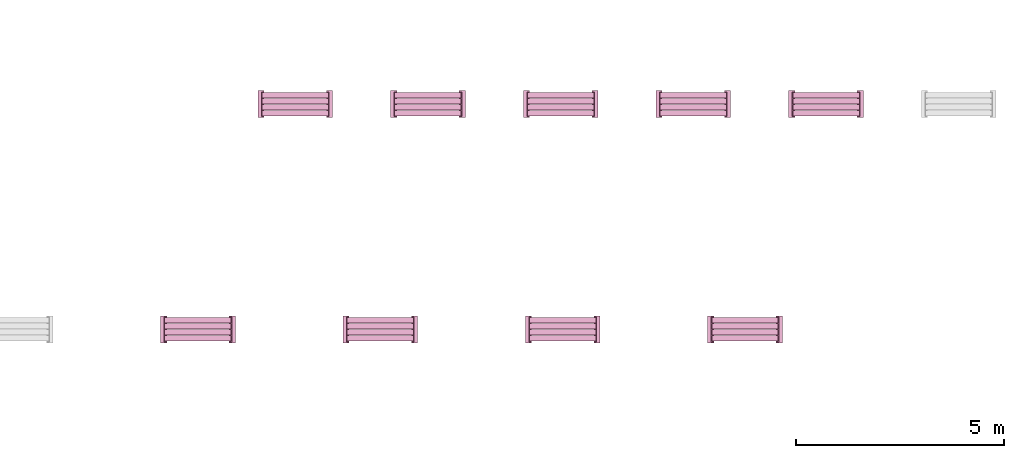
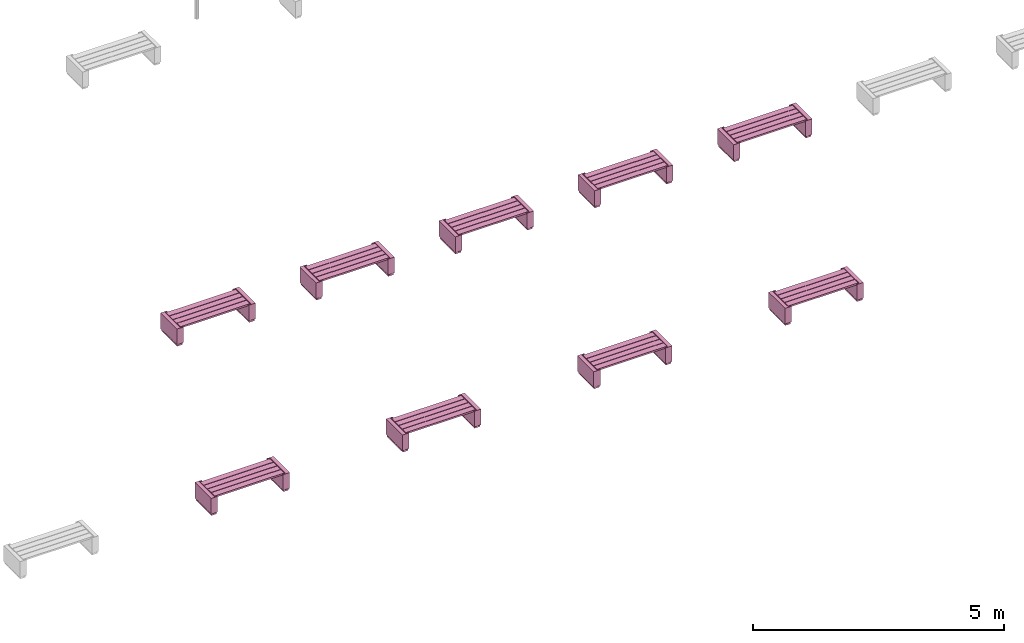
# One storey, part 6 of 8: 9 furnishings.
"""IFC2X3 building model written with IfcOpenShell, lengths in millimetres."""

from ifc_helpers import new_model, entity, si_unit, converted_unit, derived_unit, direction, frame, frame_2d, origin, origin_2d_with_axis, place, context, subcontext, project, spatial, polyline, rectangle, outline, extrude, source, transform, mapped, material, material_list, type_object, type_shapes, element, save


model = new_model("IFC2X3")

# Units and contexts
model_context = context("Model", 3, precision=0.01, world=origin(), true_north=direction((6.12303176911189e-17, 1.0)))
body_context = subcontext(model_context, "Body", "Model", "MODEL_VIEW")
ifc_project = project(units=[si_unit("LENGTHUNIT", "METRE", prefix="MILLI"), si_unit("AREAUNIT", "SQUARE_METRE"), si_unit("VOLUMEUNIT", "CUBIC_METRE"), converted_unit("PLANEANGLEUNIT", "DEGREE", entity("IfcRatioMeasure", 0.0174532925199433), si_unit("PLANEANGLEUNIT", "RADIAN"), dimensions=[0, 0, 0, 0, 0, 0, 0]), si_unit("MASSUNIT", "GRAM", prefix="KILO"), derived_unit("MASSDENSITYUNIT", [(si_unit("MASSUNIT", "GRAM", prefix="KILO"), 1), (si_unit("LENGTHUNIT", "METRE"), -3)]), si_unit("TIMEUNIT", "SECOND"), si_unit("FREQUENCYUNIT", "HERTZ"), si_unit("THERMODYNAMICTEMPERATUREUNIT", "DEGREE_CELSIUS"), derived_unit("THERMALTRANSMITTANCEUNIT", [(si_unit("MASSUNIT", "GRAM", prefix="KILO"), 1), (si_unit("THERMODYNAMICTEMPERATUREUNIT", "KELVIN"), -1), (si_unit("TIMEUNIT", "SECOND"), -3)]), derived_unit("VOLUMETRICFLOWRATEUNIT", [(si_unit("LENGTHUNIT", "METRE"), 3), (si_unit("TIMEUNIT", "SECOND"), -1)]), si_unit("ELECTRICCURRENTUNIT", "AMPERE"), si_unit("ELECTRICVOLTAGEUNIT", "VOLT"), si_unit("POWERUNIT", "WATT"), si_unit("FORCEUNIT", "NEWTON", prefix="KILO"), si_unit("ILLUMINANCEUNIT", "LUX"), si_unit("LUMINOUSFLUXUNIT", "LUMEN"), si_unit("LUMINOUSINTENSITYUNIT", "CANDELA"), derived_unit("USERDEFINED", [(si_unit("MASSUNIT", "GRAM", prefix="KILO"), -1), (si_unit("LENGTHUNIT", "METRE"), -2), (si_unit("TIMEUNIT", "SECOND"), 3), (si_unit("LUMINOUSFLUXUNIT", "LUMEN"), 1)]), derived_unit("LINEARVELOCITYUNIT", [(si_unit("LENGTHUNIT", "METRE"), 1), (si_unit("TIMEUNIT", "SECOND"), -1)]), si_unit("PRESSUREUNIT", "PASCAL"), derived_unit("USERDEFINED", [(si_unit("LENGTHUNIT", "METRE"), -2), (si_unit("MASSUNIT", "GRAM", prefix="KILO"), 1), (si_unit("TIMEUNIT", "SECOND"), -2)])], contexts=[model_context])

# Site, building, storey
site_placement = place(None, origin())
site = spatial("IfcSite", under=ifc_project, at=site_placement, Name="Default", CompositionType="ELEMENT")
building_placement = place(site_placement, origin())
building = spatial("IfcBuilding", under=site, at=building_placement, CompositionType="ELEMENT")
storey_placement = place(building_placement, origin())
storey = spatial("IfcBuildingStorey", under=building, at=storey_placement, Name="Ground Floor", CompositionType="ELEMENT", Elevation=0.0)

# Furnishings
ifc_material_1 = material(Name="Wood - Pine Grained Horizontal")
ifc_material_2 = material(Name="Paint - Titanium White")
ifc_material_list_1 = material_list([ifc_material_1, ifc_material_2])
ifc_material_list_2 = material_list([ifc_material_1, ifc_material_2])
furniture_type_1 = type_object("IfcFurnitureType", Name="FU - 036", material=ifc_material_list_2)
shared_shape_1 = source(origin(), body_context, "Body", "SweptSolid", [
    extrude(rectangle(XDim=135.000000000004, YDim=1600.0, at=frame_2d((0.0, 8.69704308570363e-12), x_axis=(1.0, 0.0))), frame((86569.7176176, 43103.6148315, 390.0), z_axis=(0.0, 0.0, 1.0), x_axis=(0.0, -1.0, 0.0)), (0.0, 0.0, 1.0), 40.0),
    extrude(rectangle(XDim=135.000000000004, YDim=1600.0, at=frame_2d((0.0, 8.69704308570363e-12), x_axis=(1.0, 0.0))), frame((86569.7176176, 42958.6148315, 390.0), z_axis=(0.0, 0.0, 1.0), x_axis=(0.0, -1.0, 0.0)), (0.0, 0.0, 1.0), 40.0),
    extrude(rectangle(XDim=134.999999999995, YDim=1600.0, at=frame_2d((-4.32720526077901e-12, 8.69704308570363e-12), x_axis=(1.0, 0.0))), frame((86569.7176176, 42813.6148315, 390.0), z_axis=(0.0, 0.0, 1.0), x_axis=(0.0, -1.0, 0.0)), (0.0, 0.0, 1.0), 40.0),
    extrude(rectangle(XDim=134.999999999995, YDim=1600.0, at=frame_2d((-4.32720526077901e-12, 8.69704308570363e-12), x_axis=(1.0, 0.0))), frame((86569.7176176, 42668.6148315, 390.0), z_axis=(0.0, 0.0, 1.0), x_axis=(0.0, -1.0, 0.0)), (0.0, 0.0, 1.0), 40.0),
    extrude(outline(polyline([(-53.7500000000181, -325.0), (96.2499999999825, -325.0), (96.2499999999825, 325.0), (-53.7500000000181, 325.0), (-53.7500000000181, 300.0), (11.2499999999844, 300.0), (11.2499999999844, -300.0), (-53.7500000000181, -300.0), (-53.7500000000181, -325.0)])), frame((87373.4676176, 42886.1148315, 390.0)), (0.0, 0.0, 1.0), 40.0),
    extrude(rectangle(XDim=150.000000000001, YDim=650.0, at=frame_2d((0.0, -4.34852154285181e-12), x_axis=(1.0, 0.0))), frame((87394.7176176, 42886.1148315, 50.0)), (0.0, 0.0, 1.0), 340.0),
    extrude(rectangle(XDim=120.000000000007, YDim=619.999999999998, at=origin_2d_with_axis()), frame((87394.7176176, 42886.1148315, 0.0)), (0.0, 0.0, 1.0), 50.0),
    extrude(outline(polyline([(-325.0, -96.2500000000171), (325.0, -96.2500000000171), (325.0, 53.7499999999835), (300.0, 53.7499999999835), (300.0, -11.2500000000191), (-300.0, -11.2500000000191), (-300.0, 53.7499999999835), (-325.0, 53.7499999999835), (-325.0, -96.2500000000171)])), frame((85765.9676176, 42886.1148315, 390.0), z_axis=(0.0, 0.0, 1.0), x_axis=(0.0, -1.0, 0.0)), (0.0, 0.0, 1.0), 40.0),
    extrude(rectangle(XDim=650.0, YDim=150.000000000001, at=frame_2d((4.34852154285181e-12, 0.0), x_axis=(1.0, 0.0))), frame((85744.7176176, 42886.1148315, 50.0), z_axis=(0.0, 0.0, 1.0), x_axis=(0.0, -1.0, 0.0)), (0.0, 0.0, 1.0), 340.0),
    extrude(rectangle(XDim=619.999999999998, YDim=120.000000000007, at=origin_2d_with_axis()), frame((85744.7176176, 42886.1148315, 0.0), z_axis=(0.0, 0.0, 1.0), x_axis=(0.0, -1.0, 0.0)), (0.0, 0.0, 1.0), 50.0),
])
type_shapes(furniture_type_1, [shared_shape_1])
furnishing_1_placement = place(storey_placement, origin())
element("IfcFurnishingElement", 1, at=furnishing_1_placement, inside=storey, type_object=furniture_type_1, material=ifc_material_list_1, Name="FU - 036 2102950:FU - 036 2102950", ObjectType="FU - 036 2102950:FU - 036 2102950", context=body_context, shape_type="MappedRepresentation", body=[
    mapped(shared_shape_1, transform((0.0, 0.0, 0.0), scale=1.0)),
])
ifc_material_list_3 = material_list([ifc_material_1, ifc_material_2])
ifc_material_list_4 = material_list([ifc_material_1, ifc_material_2])
furniture_type_2 = type_object("IfcFurnitureType", Name="FU - 036", material=ifc_material_list_4)
shared_shape_2 = source(origin(), body_context, "Body", "SweptSolid", [
    extrude(rectangle(XDim=135.000000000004, YDim=1600.0, at=frame_2d((0.0, -8.69704308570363e-12), x_axis=(1.0, 0.0))), frame((82178.6670405, 43103.6148315, 390.0), z_axis=(0.0, 0.0, 1.0), x_axis=(0.0, -1.0, 0.0)), (0.0, 0.0, 1.0), 40.0),
    extrude(rectangle(XDim=135.000000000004, YDim=1600.0, at=frame_2d((0.0, -8.69704308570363e-12), x_axis=(1.0, 0.0))), frame((82178.6670405, 42958.6148315, 390.0), z_axis=(0.0, 0.0, 1.0), x_axis=(0.0, -1.0, 0.0)), (0.0, 0.0, 1.0), 40.0),
    extrude(rectangle(XDim=134.999999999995, YDim=1600.0, at=frame_2d((-4.32720526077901e-12, -8.69704308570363e-12), x_axis=(1.0, 0.0))), frame((82178.6670405, 42813.6148315, 390.0), z_axis=(0.0, 0.0, 1.0), x_axis=(0.0, -1.0, 0.0)), (0.0, 0.0, 1.0), 40.0),
    extrude(rectangle(XDim=134.999999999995, YDim=1600.0, at=frame_2d((-4.32720526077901e-12, -8.69704308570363e-12), x_axis=(1.0, 0.0))), frame((82178.6670405, 42668.6148315, 390.0), z_axis=(0.0, 0.0, 1.0), x_axis=(0.0, -1.0, 0.0)), (0.0, 0.0, 1.0), 40.0),
    extrude(outline(polyline([(-53.7500000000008, -325.0), (96.2499999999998, -325.0), (96.2499999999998, 325.0), (-53.7500000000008, 325.0), (-53.7500000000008, 300.0), (11.2500000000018, 300.0), (11.2500000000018, -300.0), (-53.7500000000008, -300.0), (-53.7500000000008, -325.0)])), frame((82982.4170405, 42886.1148315, 390.0)), (0.0, 0.0, 1.0), 40.0),
    extrude(rectangle(XDim=150.000000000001, YDim=650.0, at=frame_2d((0.0, -4.34852154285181e-12), x_axis=(1.0, 0.0))), frame((83003.6670405, 42886.1148315, 50.0)), (0.0, 0.0, 1.0), 340.0),
    extrude(rectangle(XDim=119.99999999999, YDim=619.999999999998, at=frame_2d((-8.66506866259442e-12, 0.0), x_axis=(1.0, 0.0))), frame((83003.6670405, 42886.1148315, 0.0)), (0.0, 0.0, 1.0), 50.0),
    extrude(outline(polyline([(-325.0, -96.2499999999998), (325.0, -96.2499999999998), (325.0, 53.7500000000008), (300.0, 53.7500000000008), (300.0, -11.2500000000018), (-300.0, -11.2500000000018), (-300.0, 53.7500000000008), (-325.0, 53.7500000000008), (-325.0, -96.2499999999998)])), frame((81374.9170405, 42886.1148315, 390.0), z_axis=(0.0, 0.0, 1.0), x_axis=(0.0, -1.0, 0.0)), (0.0, 0.0, 1.0), 40.0),
    extrude(rectangle(XDim=650.0, YDim=150.000000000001, at=frame_2d((4.34852154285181e-12, 0.0), x_axis=(1.0, 0.0))), frame((81353.6670405, 42886.1148315, 50.0), z_axis=(0.0, 0.0, 1.0), x_axis=(0.0, -1.0, 0.0)), (0.0, 0.0, 1.0), 340.0),
    extrude(rectangle(XDim=619.999999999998, YDim=120.000000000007, at=origin_2d_with_axis()), frame((81353.6670405, 42886.1148315, 0.0), z_axis=(0.0, 0.0, 1.0), x_axis=(0.0, -1.0, 0.0)), (0.0, 0.0, 1.0), 50.0),
])
type_shapes(furniture_type_2, [shared_shape_2])
furnishing_2_placement = place(storey_placement, origin())
element("IfcFurnishingElement", 2, at=furnishing_2_placement, inside=storey, type_object=furniture_type_2, material=ifc_material_list_3, Name="FU - 036 2103099:FU - 036 2103099", ObjectType="FU - 036 2103099:FU - 036 2103099", context=body_context, shape_type="MappedRepresentation", body=[
    mapped(shared_shape_2, transform((0.0, 0.0, 0.0), scale=1.0)),
])
ifc_material_list_5 = material_list([ifc_material_1, ifc_material_2])
ifc_material_list_6 = material_list([ifc_material_1, ifc_material_2])
furniture_type_3 = type_object("IfcFurnitureType", Name="FU - 036", material=ifc_material_list_6)
shared_shape_3 = source(origin(), body_context, "Body", "SweptSolid", [
    extrude(rectangle(XDim=135.000000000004, YDim=1600.0, at=origin_2d_with_axis()), frame((77787.6164634, 43103.6148315, 390.0), z_axis=(0.0, 0.0, 1.0), x_axis=(0.0, -1.0, 0.0)), (0.0, 0.0, 1.0), 40.0),
    extrude(rectangle(XDim=135.000000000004, YDim=1600.0, at=origin_2d_with_axis()), frame((77787.6164634, 42958.6148315, 390.0), z_axis=(0.0, 0.0, 1.0), x_axis=(0.0, -1.0, 0.0)), (0.0, 0.0, 1.0), 40.0),
    extrude(rectangle(XDim=134.999999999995, YDim=1600.0, at=frame_2d((-4.32720526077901e-12, 0.0), x_axis=(1.0, 0.0))), frame((77787.6164634, 42813.6148315, 390.0), z_axis=(0.0, 0.0, 1.0), x_axis=(0.0, -1.0, 0.0)), (0.0, 0.0, 1.0), 40.0),
    extrude(rectangle(XDim=134.999999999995, YDim=1600.0, at=frame_2d((-4.32720526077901e-12, 0.0), x_axis=(1.0, 0.0))), frame((77787.6164634, 42668.6148315, 390.0), z_axis=(0.0, 0.0, 1.0), x_axis=(0.0, -1.0, 0.0)), (0.0, 0.0, 1.0), 40.0),
    extrude(outline(polyline([(-53.7500000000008, -325.0), (96.2499999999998, -325.0), (96.2499999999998, 325.0), (-53.7500000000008, 325.0), (-53.7500000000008, 300.0), (11.2500000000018, 300.0), (11.2500000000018, -300.0), (-53.7500000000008, -300.0), (-53.7500000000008, -325.0)])), frame((78591.3664634, 42886.1148315, 390.0)), (0.0, 0.0, 1.0), 40.0),
    extrude(rectangle(XDim=150.000000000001, YDim=650.0, at=frame_2d((0.0, -4.34852154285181e-12), x_axis=(1.0, 0.0))), frame((78612.6164634, 42886.1148315, 50.0)), (0.0, 0.0, 1.0), 340.0),
    extrude(rectangle(XDim=120.000000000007, YDim=619.999999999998, at=origin_2d_with_axis()), frame((78612.6164634, 42886.1148315, 0.0)), (0.0, 0.0, 1.0), 50.0),
    extrude(outline(polyline([(-325.0, -96.2499999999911), (325.0, -96.2499999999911), (325.0, 53.7500000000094), (300.0, 53.7500000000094), (300.0, -11.2499999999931), (-300.0, -11.2499999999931), (-300.0, 53.7500000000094), (-325.0, 53.7500000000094), (-325.0, -96.2499999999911)])), frame((76983.8664634, 42886.1148315, 390.0), z_axis=(0.0, 0.0, 1.0), x_axis=(0.0, -1.0, 0.0)), (0.0, 0.0, 1.0), 40.0),
    extrude(rectangle(XDim=650.0, YDim=150.000000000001, at=frame_2d((4.34852154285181e-12, 0.0), x_axis=(1.0, 0.0))), frame((76962.6164634, 42886.1148315, 50.0), z_axis=(0.0, 0.0, 1.0), x_axis=(0.0, -1.0, 0.0)), (0.0, 0.0, 1.0), 340.0),
    extrude(rectangle(XDim=619.999999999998, YDim=119.999999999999, at=frame_2d((0.0, 4.33075797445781e-12), x_axis=(1.0, 0.0))), frame((76962.6164634, 42886.1148315, 0.0), z_axis=(0.0, 0.0, 1.0), x_axis=(0.0, -1.0, 0.0)), (0.0, 0.0, 1.0), 50.0),
])
type_shapes(furniture_type_3, [shared_shape_3])
furnishing_3_placement = place(storey_placement, origin())
element("IfcFurnishingElement", 3, at=furnishing_3_placement, inside=storey, type_object=furniture_type_3, material=ifc_material_list_5, Name="FU - 036 2103248:FU - 036 2103248", ObjectType="FU - 036 2103248:FU - 036 2103248", context=body_context, shape_type="MappedRepresentation", body=[
    mapped(shared_shape_3, transform((0.0, 0.0, 0.0), scale=1.0)),
])
ifc_material_list_7 = material_list([ifc_material_1, ifc_material_2])
ifc_material_list_8 = material_list([ifc_material_1, ifc_material_2])
furniture_type_4 = type_object("IfcFurnitureType", Name="FU - 036", material=ifc_material_list_8)
shared_shape_4 = source(origin(), body_context, "Body", "SweptSolid", [
    extrude(rectangle(XDim=135.000000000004, YDim=1600.0, at=frame_2d((0.0, 8.69704308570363e-12), x_axis=(1.0, 0.0))), frame((73396.5658864, 43103.6148315, 390.0), z_axis=(0.0, 0.0, 1.0), x_axis=(0.0, -1.0, 0.0)), (0.0, 0.0, 1.0), 40.0),
    extrude(rectangle(XDim=135.000000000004, YDim=1600.0, at=frame_2d((0.0, 8.69704308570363e-12), x_axis=(1.0, 0.0))), frame((73396.5658864, 42958.6148315, 390.0), z_axis=(0.0, 0.0, 1.0), x_axis=(0.0, -1.0, 0.0)), (0.0, 0.0, 1.0), 40.0),
    extrude(rectangle(XDim=134.999999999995, YDim=1600.0, at=frame_2d((-4.32720526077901e-12, 8.69704308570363e-12), x_axis=(1.0, 0.0))), frame((73396.5658864, 42813.6148315, 390.0), z_axis=(0.0, 0.0, 1.0), x_axis=(0.0, -1.0, 0.0)), (0.0, 0.0, 1.0), 40.0),
    extrude(rectangle(XDim=134.999999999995, YDim=1600.0, at=frame_2d((-4.32720526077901e-12, 8.69704308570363e-12), x_axis=(1.0, 0.0))), frame((73396.5658864, 42668.6148315, 390.0), z_axis=(0.0, 0.0, 1.0), x_axis=(0.0, -1.0, 0.0)), (0.0, 0.0, 1.0), 40.0),
    extrude(outline(polyline([(-53.7500000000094, -325.0), (96.2499999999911, -325.0), (96.2499999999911, 325.0), (-53.7500000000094, 325.0), (-53.7500000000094, 300.0), (11.2499999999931, 300.0), (11.2499999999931, -300.0), (-53.7500000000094, -300.0), (-53.7500000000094, -325.0)])), frame((74200.3158864, 42886.1148315, 390.0)), (0.0, 0.0, 1.0), 40.0),
    extrude(rectangle(XDim=150.000000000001, YDim=650.0, at=frame_2d((0.0, -4.34852154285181e-12), x_axis=(1.0, 0.0))), frame((74221.5658864, 42886.1148315, 50.0)), (0.0, 0.0, 1.0), 340.0),
    extrude(rectangle(XDim=120.000000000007, YDim=619.999999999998, at=origin_2d_with_axis()), frame((74221.5658864, 42886.1148315, 0.0)), (0.0, 0.0, 1.0), 50.0),
    extrude(outline(polyline([(-325.0, -96.2500000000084), (325.0, -96.2500000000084), (325.0, 53.7499999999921), (300.0, 53.7499999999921), (300.0, -11.2500000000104), (-300.0, -11.2500000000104), (-300.0, 53.7499999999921), (-325.0, 53.7499999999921), (-325.0, -96.2500000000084)])), frame((72592.8158864, 42886.1148315, 390.0), z_axis=(0.0, 0.0, 1.0), x_axis=(0.0, -1.0, 0.0)), (0.0, 0.0, 1.0), 40.0),
    extrude(rectangle(XDim=650.0, YDim=150.000000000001, at=frame_2d((4.34852154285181e-12, 0.0), x_axis=(1.0, 0.0))), frame((72571.5658864, 42886.1148315, 50.0), z_axis=(0.0, 0.0, 1.0), x_axis=(0.0, -1.0, 0.0)), (0.0, 0.0, 1.0), 340.0),
    extrude(rectangle(XDim=619.999999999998, YDim=119.999999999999, at=frame_2d((0.0, -4.33075797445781e-12), x_axis=(1.0, 0.0))), frame((72571.5658864, 42886.1148315, 0.0), z_axis=(0.0, 0.0, 1.0), x_axis=(0.0, -1.0, 0.0)), (0.0, 0.0, 1.0), 50.0),
])
type_shapes(furniture_type_4, [shared_shape_4])
furnishing_4_placement = place(storey_placement, origin())
element("IfcFurnishingElement", 4, at=furnishing_4_placement, inside=storey, type_object=furniture_type_4, material=ifc_material_list_7, Name="FU - 036 2103397:FU - 036 2103397", ObjectType="FU - 036 2103397:FU - 036 2103397", context=body_context, shape_type="MappedRepresentation", body=[
    mapped(shared_shape_4, transform((0.0, 0.0, 0.0), scale=1.0)),
])
ifc_material_list_9 = material_list([ifc_material_1, ifc_material_2])
ifc_material_list_10 = material_list([ifc_material_1, ifc_material_2])
furniture_type_5 = type_object("IfcFurnitureType", Name="FU - 036", material=ifc_material_list_10)
shared_shape_5 = source(origin(), body_context, "Body", "SweptSolid", [
    extrude(rectangle(XDim=134.999999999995, YDim=1600.0, at=frame_2d((4.32720526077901e-12, -8.69704308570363e-12), x_axis=(1.0, 0.0))), frame((88522.1799423, 48525.8136589, 390.0), z_axis=(0.0, 0.0, 1.0), x_axis=(0.0, -1.0, 0.0)), (0.0, 0.0, 1.0), 40.0),
    extrude(rectangle(XDim=134.999999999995, YDim=1600.0, at=frame_2d((4.32720526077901e-12, -8.69704308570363e-12), x_axis=(1.0, 0.0))), frame((88522.1799423, 48380.8136589, 390.0), z_axis=(0.0, 0.0, 1.0), x_axis=(0.0, -1.0, 0.0)), (0.0, 0.0, 1.0), 40.0),
    extrude(rectangle(XDim=135.000000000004, YDim=1600.0, at=frame_2d((0.0, -8.69704308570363e-12), x_axis=(1.0, 0.0))), frame((88522.1799423, 48235.8136589, 390.0), z_axis=(0.0, 0.0, 1.0), x_axis=(0.0, -1.0, 0.0)), (0.0, 0.0, 1.0), 40.0),
    extrude(rectangle(XDim=135.000000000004, YDim=1600.0, at=frame_2d((0.0, -8.69704308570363e-12), x_axis=(1.0, 0.0))), frame((88522.1799423, 48090.8136589, 390.0), z_axis=(0.0, 0.0, 1.0), x_axis=(0.0, -1.0, 0.0)), (0.0, 0.0, 1.0), 40.0),
    extrude(outline(polyline([(-53.7500000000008, -325.0), (96.2499999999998, -325.0), (96.2499999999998, 325.0), (-53.7500000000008, 325.0), (-53.7500000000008, 300.0), (11.2500000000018, 300.0), (11.2500000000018, -300.0), (-53.7500000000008, -300.0), (-53.7500000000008, -325.0)])), frame((89325.9299423, 48308.3136589, 390.0)), (0.0, 0.0, 1.0), 40.0),
    extrude(rectangle(XDim=150.000000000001, YDim=650.0, at=frame_2d((0.0, 4.34852154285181e-12), x_axis=(1.0, 0.0))), frame((89347.1799423, 48308.3136589, 50.0)), (0.0, 0.0, 1.0), 340.0),
    extrude(rectangle(XDim=120.000000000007, YDim=619.999999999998, at=origin_2d_with_axis()), frame((89347.1799423, 48308.3136589, 0.0)), (0.0, 0.0, 1.0), 50.0),
    extrude(outline(polyline([(-325.0, -96.2499999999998), (325.0, -96.2499999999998), (325.0, 53.7500000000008), (300.0, 53.7500000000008), (300.0, -11.2499999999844), (-300.0, -11.2499999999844), (-300.0, 53.7500000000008), (-325.0, 53.7500000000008), (-325.0, -96.2499999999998)])), frame((87718.4299423, 48308.3136589, 390.0), z_axis=(0.0, 0.0, 1.0), x_axis=(0.0, -1.0, 0.0)), (0.0, 0.0, 1.0), 40.0),
    extrude(rectangle(XDim=650.0, YDim=150.000000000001, at=frame_2d((-4.34852154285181e-12, 0.0), x_axis=(1.0, 0.0))), frame((87697.1799423, 48308.3136589, 50.0), z_axis=(0.0, 0.0, 1.0), x_axis=(0.0, -1.0, 0.0)), (0.0, 0.0, 1.0), 340.0),
    extrude(rectangle(XDim=619.999999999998, YDim=119.99999999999, at=frame_2d((0.0, -8.66506866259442e-12), x_axis=(1.0, 0.0))), frame((87697.1799423, 48308.3136589, 0.0), z_axis=(0.0, 0.0, 1.0), x_axis=(0.0, -1.0, 0.0)), (0.0, 0.0, 1.0), 50.0),
])
type_shapes(furniture_type_5, [shared_shape_5])
furnishing_5_placement = place(storey_placement, origin())
element("IfcFurnishingElement", 5, at=furnishing_5_placement, inside=storey, type_object=furniture_type_5, material=ifc_material_list_9, Name="FU - 036 2105121:FU - 036 2105121", ObjectType="FU - 036 2105121:FU - 036 2105121", context=body_context, shape_type="MappedRepresentation", body=[
    mapped(shared_shape_5, transform((0.0, 0.0, 0.0), scale=1.0)),
])
ifc_material_list_11 = material_list([ifc_material_1, ifc_material_2])
ifc_material_list_12 = material_list([ifc_material_1, ifc_material_2])
furniture_type_6 = type_object("IfcFurnitureType", Name="FU - 036", material=ifc_material_list_12)
shared_shape_6 = source(origin(), body_context, "Body", "SweptSolid", [
    extrude(rectangle(XDim=134.999999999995, YDim=1600.0, at=frame_2d((4.32720526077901e-12, 8.69704308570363e-12), x_axis=(1.0, 0.0))), frame((85326.6209492, 48525.8136589, 390.0), z_axis=(0.0, 0.0, 1.0), x_axis=(0.0, -1.0, 0.0)), (0.0, 0.0, 1.0), 40.0),
    extrude(rectangle(XDim=134.999999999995, YDim=1600.0, at=frame_2d((4.32720526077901e-12, 8.69704308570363e-12), x_axis=(1.0, 0.0))), frame((85326.6209492, 48380.8136589, 390.0), z_axis=(0.0, 0.0, 1.0), x_axis=(0.0, -1.0, 0.0)), (0.0, 0.0, 1.0), 40.0),
    extrude(rectangle(XDim=135.000000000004, YDim=1600.0, at=frame_2d((0.0, 8.69704308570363e-12), x_axis=(1.0, 0.0))), frame((85326.6209492, 48235.8136589, 390.0), z_axis=(0.0, 0.0, 1.0), x_axis=(0.0, -1.0, 0.0)), (0.0, 0.0, 1.0), 40.0),
    extrude(rectangle(XDim=135.000000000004, YDim=1600.0, at=frame_2d((0.0, 8.69704308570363e-12), x_axis=(1.0, 0.0))), frame((85326.6209492, 48090.8136589, 390.0), z_axis=(0.0, 0.0, 1.0), x_axis=(0.0, -1.0, 0.0)), (0.0, 0.0, 1.0), 40.0),
    extrude(outline(polyline([(-53.7500000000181, -325.0), (96.2499999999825, -325.0), (96.2499999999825, 325.0), (-53.7500000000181, 325.0), (-53.7500000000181, 300.0), (11.2499999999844, 300.0), (11.2499999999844, -300.0), (-53.7500000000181, -300.0), (-53.7500000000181, -325.0)])), frame((86130.3709492, 48308.3136589, 390.0)), (0.0, 0.0, 1.0), 40.0),
    extrude(rectangle(XDim=150.000000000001, YDim=650.0, at=frame_2d((0.0, 4.34852154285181e-12), x_axis=(1.0, 0.0))), frame((86151.6209492, 48308.3136589, 50.0)), (0.0, 0.0, 1.0), 340.0),
    extrude(rectangle(XDim=120.000000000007, YDim=619.999999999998, at=origin_2d_with_axis()), frame((86151.6209492, 48308.3136589, 0.0)), (0.0, 0.0, 1.0), 50.0),
    extrude(outline(polyline([(-325.0, -96.2500000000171), (325.0, -96.2500000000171), (325.0, 53.7499999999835), (300.0, 53.7499999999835), (300.0, -11.2500000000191), (-300.0, -11.2500000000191), (-300.0, 53.7499999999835), (-325.0, 53.7499999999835), (-325.0, -96.2500000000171)])), frame((84522.8709492, 48308.3136589, 390.0), z_axis=(0.0, 0.0, 1.0), x_axis=(0.0, -1.0, 0.0)), (0.0, 0.0, 1.0), 40.0),
    extrude(rectangle(XDim=650.0, YDim=150.000000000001, at=frame_2d((-4.34852154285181e-12, 0.0), x_axis=(1.0, 0.0))), frame((84501.6209492, 48308.3136589, 50.0), z_axis=(0.0, 0.0, 1.0), x_axis=(0.0, -1.0, 0.0)), (0.0, 0.0, 1.0), 340.0),
    extrude(rectangle(XDim=619.999999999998, YDim=119.99999999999, at=frame_2d((0.0, 8.66506866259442e-12), x_axis=(1.0, 0.0))), frame((84501.6209492, 48308.3136589, 0.0), z_axis=(0.0, 0.0, 1.0), x_axis=(0.0, -1.0, 0.0)), (0.0, 0.0, 1.0), 50.0),
])
type_shapes(furniture_type_6, [shared_shape_6])
furnishing_6_placement = place(storey_placement, origin())
element("IfcFurnishingElement", 6, at=furnishing_6_placement, inside=storey, type_object=furniture_type_6, material=ifc_material_list_11, Name="FU - 036 2105270:FU - 036 2105270", ObjectType="FU - 036 2105270:FU - 036 2105270", context=body_context, shape_type="MappedRepresentation", body=[
    mapped(shared_shape_6, transform((0.0, 0.0, 0.0), scale=1.0)),
])
ifc_material_list_13 = material_list([ifc_material_1, ifc_material_2])
ifc_material_list_14 = material_list([ifc_material_1, ifc_material_2])
furniture_type_7 = type_object("IfcFurnitureType", Name="FU - 036", material=ifc_material_list_14)
shared_shape_7 = source(origin(), body_context, "Body", "SweptSolid", [
    extrude(rectangle(XDim=134.999999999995, YDim=1600.0, at=frame_2d((4.32720526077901e-12, -8.69704308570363e-12), x_axis=(1.0, 0.0))), frame((82131.0619561, 48525.8136589, 390.0), z_axis=(0.0, 0.0, 1.0), x_axis=(0.0, -1.0, 0.0)), (0.0, 0.0, 1.0), 40.0),
    extrude(rectangle(XDim=134.999999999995, YDim=1600.0, at=frame_2d((4.32720526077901e-12, -8.69704308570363e-12), x_axis=(1.0, 0.0))), frame((82131.0619561, 48380.8136589, 390.0), z_axis=(0.0, 0.0, 1.0), x_axis=(0.0, -1.0, 0.0)), (0.0, 0.0, 1.0), 40.0),
    extrude(rectangle(XDim=135.000000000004, YDim=1600.0, at=frame_2d((0.0, -8.69704308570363e-12), x_axis=(1.0, 0.0))), frame((82131.0619561, 48235.8136589, 390.0), z_axis=(0.0, 0.0, 1.0), x_axis=(0.0, -1.0, 0.0)), (0.0, 0.0, 1.0), 40.0),
    extrude(rectangle(XDim=135.000000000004, YDim=1600.0, at=frame_2d((0.0, -8.69704308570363e-12), x_axis=(1.0, 0.0))), frame((82131.0619561, 48090.8136589, 390.0), z_axis=(0.0, 0.0, 1.0), x_axis=(0.0, -1.0, 0.0)), (0.0, 0.0, 1.0), 40.0),
    extrude(outline(polyline([(-53.7500000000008, -325.0), (96.2499999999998, -325.0), (96.2499999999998, 325.0), (-53.7500000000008, 325.0), (-53.7500000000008, 300.0), (11.2500000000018, 300.0), (11.2500000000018, -300.0), (-53.7500000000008, -300.0), (-53.7500000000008, -325.0)])), frame((82934.8119561, 48308.3136589, 390.0)), (0.0, 0.0, 1.0), 40.0),
    extrude(rectangle(XDim=150.000000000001, YDim=650.0, at=frame_2d((0.0, 4.34852154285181e-12), x_axis=(1.0, 0.0))), frame((82956.0619561, 48308.3136589, 50.0)), (0.0, 0.0, 1.0), 340.0),
    extrude(rectangle(XDim=120.000000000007, YDim=619.999999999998, at=origin_2d_with_axis()), frame((82956.0619561, 48308.3136589, 0.0)), (0.0, 0.0, 1.0), 50.0),
    extrude(outline(polyline([(-325.0, -96.2499999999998), (325.0, -96.2499999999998), (325.0, 53.7500000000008), (300.0, 53.7500000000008), (300.0, -11.2500000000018), (-300.0, -11.2500000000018), (-300.0, 53.7500000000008), (-325.0, 53.7500000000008), (-325.0, -96.2499999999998)])), frame((81327.3119561, 48308.3136589, 390.0), z_axis=(0.0, 0.0, 1.0), x_axis=(0.0, -1.0, 0.0)), (0.0, 0.0, 1.0), 40.0),
    extrude(rectangle(XDim=650.0, YDim=150.000000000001, at=frame_2d((-4.34852154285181e-12, 0.0), x_axis=(1.0, 0.0))), frame((81306.0619561, 48308.3136589, 50.0), z_axis=(0.0, 0.0, 1.0), x_axis=(0.0, -1.0, 0.0)), (0.0, 0.0, 1.0), 340.0),
    extrude(rectangle(XDim=619.999999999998, YDim=120.000000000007, at=origin_2d_with_axis()), frame((81306.0619561, 48308.3136589, 0.0), z_axis=(0.0, 0.0, 1.0), x_axis=(0.0, -1.0, 0.0)), (0.0, 0.0, 1.0), 50.0),
])
type_shapes(furniture_type_7, [shared_shape_7])
furnishing_7_placement = place(storey_placement, origin())
element("IfcFurnishingElement", 7, at=furnishing_7_placement, inside=storey, type_object=furniture_type_7, material=ifc_material_list_13, Name="FU - 036 2105419:FU - 036 2105419", ObjectType="FU - 036 2105419:FU - 036 2105419", context=body_context, shape_type="MappedRepresentation", body=[
    mapped(shared_shape_7, transform((0.0, 0.0, 0.0), scale=1.0)),
])
ifc_material_list_15 = material_list([ifc_material_1, ifc_material_2])
ifc_material_list_16 = material_list([ifc_material_1, ifc_material_2])
furniture_type_8 = type_object("IfcFurnitureType", Name="FU - 036", material=ifc_material_list_16)
shared_shape_8 = source(origin(), body_context, "Body", "SweptSolid", [
    extrude(rectangle(XDim=134.999999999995, YDim=1600.0, at=frame_2d((4.32720526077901e-12, -8.69704308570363e-12), x_axis=(1.0, 0.0))), frame((78935.502963, 48525.8136589, 390.0), z_axis=(0.0, 0.0, 1.0), x_axis=(0.0, -1.0, 0.0)), (0.0, 0.0, 1.0), 40.0),
    extrude(rectangle(XDim=134.999999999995, YDim=1600.0, at=frame_2d((4.32720526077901e-12, -8.69704308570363e-12), x_axis=(1.0, 0.0))), frame((78935.502963, 48380.8136589, 390.0), z_axis=(0.0, 0.0, 1.0), x_axis=(0.0, -1.0, 0.0)), (0.0, 0.0, 1.0), 40.0),
    extrude(rectangle(XDim=135.000000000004, YDim=1600.0, at=frame_2d((0.0, -8.69704308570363e-12), x_axis=(1.0, 0.0))), frame((78935.502963, 48235.8136589, 390.0), z_axis=(0.0, 0.0, 1.0), x_axis=(0.0, -1.0, 0.0)), (0.0, 0.0, 1.0), 40.0),
    extrude(rectangle(XDim=135.000000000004, YDim=1600.0, at=frame_2d((0.0, -8.69704308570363e-12), x_axis=(1.0, 0.0))), frame((78935.502963, 48090.8136589, 390.0), z_axis=(0.0, 0.0, 1.0), x_axis=(0.0, -1.0, 0.0)), (0.0, 0.0, 1.0), 40.0),
    extrude(outline(polyline([(-53.7500000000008, -325.0), (96.2499999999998, -325.0), (96.2499999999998, 325.0), (-53.7500000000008, 325.0), (-53.7500000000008, 300.0), (11.2499999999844, 300.0), (11.2499999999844, -300.0), (-53.7500000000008, -300.0), (-53.7500000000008, -325.0)])), frame((79739.252963, 48308.3136589, 390.0)), (0.0, 0.0, 1.0), 40.0),
    extrude(rectangle(XDim=150.000000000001, YDim=650.0, at=frame_2d((0.0, 4.34852154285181e-12), x_axis=(1.0, 0.0))), frame((79760.502963, 48308.3136589, 50.0)), (0.0, 0.0, 1.0), 340.0),
    extrude(rectangle(XDim=119.99999999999, YDim=619.999999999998, at=frame_2d((-8.66506866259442e-12, 0.0), x_axis=(1.0, 0.0))), frame((79760.502963, 48308.3136589, 0.0)), (0.0, 0.0, 1.0), 50.0),
    extrude(outline(polyline([(-325.0, -96.2499999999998), (325.0, -96.2499999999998), (325.0, 53.7500000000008), (300.0, 53.7500000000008), (300.0, -11.2500000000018), (-300.0, -11.2500000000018), (-300.0, 53.7500000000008), (-325.0, 53.7500000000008), (-325.0, -96.2499999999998)])), frame((78131.752963, 48308.3136589, 390.0), z_axis=(0.0, 0.0, 1.0), x_axis=(0.0, -1.0, 0.0)), (0.0, 0.0, 1.0), 40.0),
    extrude(rectangle(XDim=650.0, YDim=150.000000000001, at=frame_2d((-4.34852154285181e-12, 0.0), x_axis=(1.0, 0.0))), frame((78110.502963, 48308.3136589, 50.0), z_axis=(0.0, 0.0, 1.0), x_axis=(0.0, -1.0, 0.0)), (0.0, 0.0, 1.0), 340.0),
    extrude(rectangle(XDim=619.999999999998, YDim=120.000000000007, at=origin_2d_with_axis()), frame((78110.502963, 48308.3136589, 0.0), z_axis=(0.0, 0.0, 1.0), x_axis=(0.0, -1.0, 0.0)), (0.0, 0.0, 1.0), 50.0),
])
type_shapes(furniture_type_8, [shared_shape_8])
furnishing_8_placement = place(storey_placement, origin())
element("IfcFurnishingElement", 8, at=furnishing_8_placement, inside=storey, type_object=furniture_type_8, material=ifc_material_list_15, Name="FU - 036 2105568:FU - 036 2105568", ObjectType="FU - 036 2105568:FU - 036 2105568", context=body_context, shape_type="MappedRepresentation", body=[
    mapped(shared_shape_8, transform((0.0, 0.0, 0.0), scale=1.0)),
])
ifc_material_list_17 = material_list([ifc_material_1, ifc_material_2])
ifc_material_list_18 = material_list([ifc_material_1, ifc_material_2])
furniture_type_9 = type_object("IfcFurnitureType", Name="FU - 036", material=ifc_material_list_18)
shared_shape_9 = source(origin(), body_context, "Body", "SweptSolid", [
    extrude(rectangle(XDim=134.999999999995, YDim=1600.0, at=frame_2d((4.32720526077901e-12, 0.0), x_axis=(1.0, 0.0))), frame((75739.94397, 48525.8136589, 390.0), z_axis=(0.0, 0.0, 1.0), x_axis=(0.0, -1.0, 0.0)), (0.0, 0.0, 1.0), 40.0),
    extrude(rectangle(XDim=134.999999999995, YDim=1600.0, at=frame_2d((4.32720526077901e-12, 0.0), x_axis=(1.0, 0.0))), frame((75739.94397, 48380.8136589, 390.0), z_axis=(0.0, 0.0, 1.0), x_axis=(0.0, -1.0, 0.0)), (0.0, 0.0, 1.0), 40.0),
    extrude(rectangle(XDim=135.000000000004, YDim=1600.0, at=origin_2d_with_axis()), frame((75739.94397, 48235.8136589, 390.0), z_axis=(0.0, 0.0, 1.0), x_axis=(0.0, -1.0, 0.0)), (0.0, 0.0, 1.0), 40.0),
    extrude(rectangle(XDim=135.000000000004, YDim=1600.0, at=origin_2d_with_axis()), frame((75739.94397, 48090.8136589, 390.0), z_axis=(0.0, 0.0, 1.0), x_axis=(0.0, -1.0, 0.0)), (0.0, 0.0, 1.0), 40.0),
    extrude(outline(polyline([(-53.7499999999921, -325.0), (96.2500000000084, -325.0), (96.2500000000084, 325.0), (-53.7499999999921, 325.0), (-53.7499999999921, 300.0), (11.2500000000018, 300.0), (11.2500000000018, -300.0), (-53.7499999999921, -300.0), (-53.7499999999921, -325.0)])), frame((76543.69397, 48308.3136589, 390.0)), (0.0, 0.0, 1.0), 40.0),
    extrude(rectangle(XDim=150.000000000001, YDim=650.0, at=frame_2d((0.0, 4.34852154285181e-12), x_axis=(1.0, 0.0))), frame((76564.94397, 48308.3136589, 50.0)), (0.0, 0.0, 1.0), 340.0),
    extrude(rectangle(XDim=119.999999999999, YDim=619.999999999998, at=frame_2d((4.33075797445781e-12, 0.0), x_axis=(1.0, 0.0))), frame((76564.94397, 48308.3136589, 0.0)), (0.0, 0.0, 1.0), 50.0),
    extrude(outline(polyline([(-325.0, -96.2499999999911), (325.0, -96.2499999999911), (325.0, 53.7500000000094), (300.0, 53.7500000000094), (300.0, -11.2499999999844), (-300.0, -11.2499999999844), (-300.0, 53.7500000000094), (-325.0, 53.7500000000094), (-325.0, -96.2499999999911)])), frame((74936.19397, 48308.3136589, 390.0), z_axis=(0.0, 0.0, 1.0), x_axis=(0.0, -1.0, 0.0)), (0.0, 0.0, 1.0), 40.0),
    extrude(rectangle(XDim=650.0, YDim=150.000000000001, at=frame_2d((-4.34852154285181e-12, 0.0), x_axis=(1.0, 0.0))), frame((74914.94397, 48308.3136589, 50.0), z_axis=(0.0, 0.0, 1.0), x_axis=(0.0, -1.0, 0.0)), (0.0, 0.0, 1.0), 340.0),
    extrude(rectangle(XDim=619.999999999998, YDim=119.999999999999, at=frame_2d((0.0, 4.33075797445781e-12), x_axis=(1.0, 0.0))), frame((74914.94397, 48308.3136589, 0.0), z_axis=(0.0, 0.0, 1.0), x_axis=(0.0, -1.0, 0.0)), (0.0, 0.0, 1.0), 50.0),
])
type_shapes(furniture_type_9, [shared_shape_9])
furnishing_9_placement = place(storey_placement, origin())
element("IfcFurnishingElement", 9, at=furnishing_9_placement, inside=storey, type_object=furniture_type_9, material=ifc_material_list_17, Name="FU - 036 2105717:FU - 036 2105717", ObjectType="FU - 036 2105717:FU - 036 2105717", context=body_context, shape_type="MappedRepresentation", body=[
    mapped(shared_shape_9, transform((0.0, 0.0, 0.0), scale=1.0)),
])

save(model, "model.ifc")
